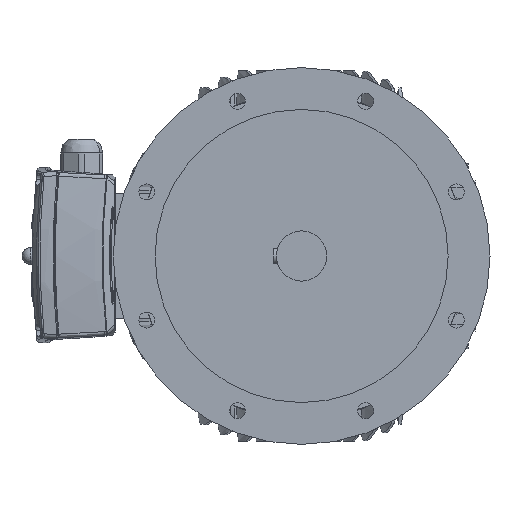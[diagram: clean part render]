
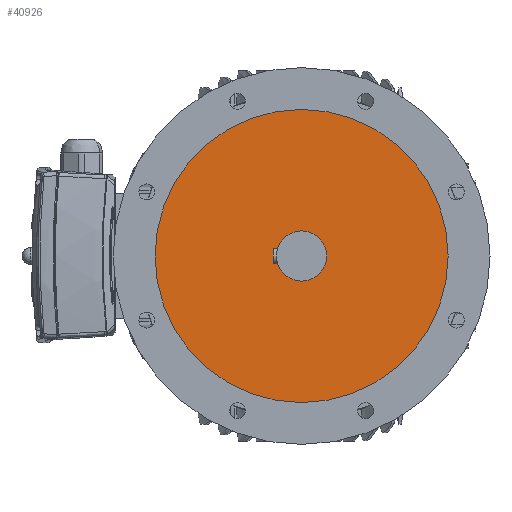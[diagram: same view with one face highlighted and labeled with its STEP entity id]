
A CAD part, left-side view. The second image highlights one B-rep face of the part: STEP entity #40926.
In plain terms, the highlighted planar face has unit normal (-1, 0, 0) as drawn and (0, 0, 1) by its records, which use the part's own axes.
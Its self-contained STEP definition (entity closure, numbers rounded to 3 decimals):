
#39412=CARTESIAN_POINT('',(0.,0.,41.));
#39413=DIRECTION('',(0.,0.,1.));
#39414=DIRECTION('',(1.,0.,0.));
#39415=AXIS2_PLACEMENT_3D('',#39412,#39413,#39414);
#39417=CARTESIAN_POINT('',(0.,0.,41.));
#39418=DIRECTION('',(0.,0.,1.));
#39419=DIRECTION('',(-1.,0.,0.));
#39420=AXIS2_PLACEMENT_3D('',#39417,#39418,#39419);
#39422=CARTESIAN_POINT('',(0.,0.,41.));
#39423=DIRECTION('',(0.,0.,1.));
#39424=DIRECTION('',(0.,-1.,0.));
#39425=AXIS2_PLACEMENT_3D('',#39422,#39423,#39424);
#39427=CARTESIAN_POINT('',(0.,0.,41.));
#39428=DIRECTION('',(0.,0.,1.));
#39429=DIRECTION('',(0.,1.,0.));
#39430=AXIS2_PLACEMENT_3D('',#39427,#39428,#39429);
#39869=CARTESIAN_POINT('',(175.,0.,41.));
#39871=VERTEX_POINT('',#39869);
#39873=CARTESIAN_POINT('',(-175.,0.,41.));
#39875=VERTEX_POINT('',#39873);
#39880=CARTESIAN_POINT('',(0.,-30.,41.));
#39881=CARTESIAN_POINT('',(0.,30.,41.));
#39882=VERTEX_POINT('',#39880);
#39883=VERTEX_POINT('',#39881);
#40911=CARTESIAN_POINT('',(0.,163.,41.));
#40912=DIRECTION('',(0.,0.,-1.));
#40913=DIRECTION('',(-1.,0.,0.));
#40914=AXIS2_PLACEMENT_3D('',#40911,#40912,#40913);
#40915=PLANE('',#40914);
#40916=ORIENTED_EDGE('',*,*,#40905,.F.);
#40917=ORIENTED_EDGE('',*,*,#40891,.F.);
#40918=EDGE_LOOP('',(#40916,#40917));
#40919=FACE_OUTER_BOUND('',#40918,.F.);
#40921=ORIENTED_EDGE('',*,*,#40920,.T.);
#40923=ORIENTED_EDGE('',*,*,#40922,.T.);
#40924=EDGE_LOOP('',(#40921,#40923));
#40925=FACE_BOUND('',#40924,.F.);
#39416=CIRCLE('',#39415,175.);
#39421=CIRCLE('',#39420,175.);
#39426=CIRCLE('',#39425,30.);
#39431=CIRCLE('',#39430,30.);
#40891=EDGE_CURVE('',#39875,#39871,#39421,.T.);
#40905=EDGE_CURVE('',#39871,#39875,#39416,.T.);
#40920=EDGE_CURVE('',#39882,#39883,#39426,.T.);
#40922=EDGE_CURVE('',#39883,#39882,#39431,.T.);
#40926=ADVANCED_FACE('',(#40919,#40925),#40915,.F.);
